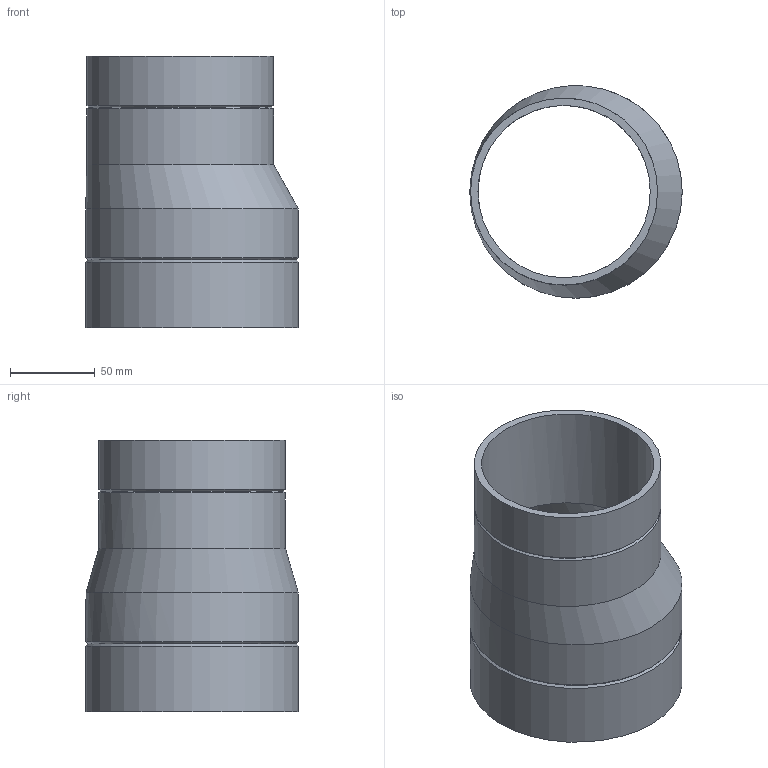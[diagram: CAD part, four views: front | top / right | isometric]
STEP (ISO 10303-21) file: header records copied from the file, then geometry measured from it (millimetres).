
FILE_DESCRIPTION(/* description */ (''),/* implementation_level */ '2;1');
FILE_NAME(/* name */ 'Z:\Geberit\Export\NewStep\368584.stp',/* time_stamp */ '2014-04-02T08:01:04+02:00',/* author */ ('nelson'),/* organization */ (''),/* preprocessor_version */ 'ST-DEVELOPER v15.2',/* originating_system */ 'Autodesk Inventor 2014',/* authorisation */ '');
FILE_SCHEMA (('AUTOMOTIVE_DESIGN { 1 0 10303 214 3 1 1 }'));
Length unit declared in the file: millimetre
Products named in the file (1): 368584
Bounding box: 125 x 125 x 160 mm (x, y, z)
Volume: 262268.1 mm3; surface area: 118737.3 mm2
Topology: 1 solids, 1 shells, 14 faces, 38 edges, 26 vertices
Faces by surface type: cylinder 6, cone 4, bspline 2, plane 2
Full cylindrical faces by diameter (mm): 101.4 x1, 110 x2, 115.2 x1, 125 x2
Entity records: 417 total; most frequent: CARTESIAN_POINT 93, DIRECTION 66, ORIENTED_EDGE 44, AXIS2_PLACEMENT_3D 33, EDGE_LOOP 26, EDGE_CURVE 22, CIRCLE 20, VERTEX_POINT 20
